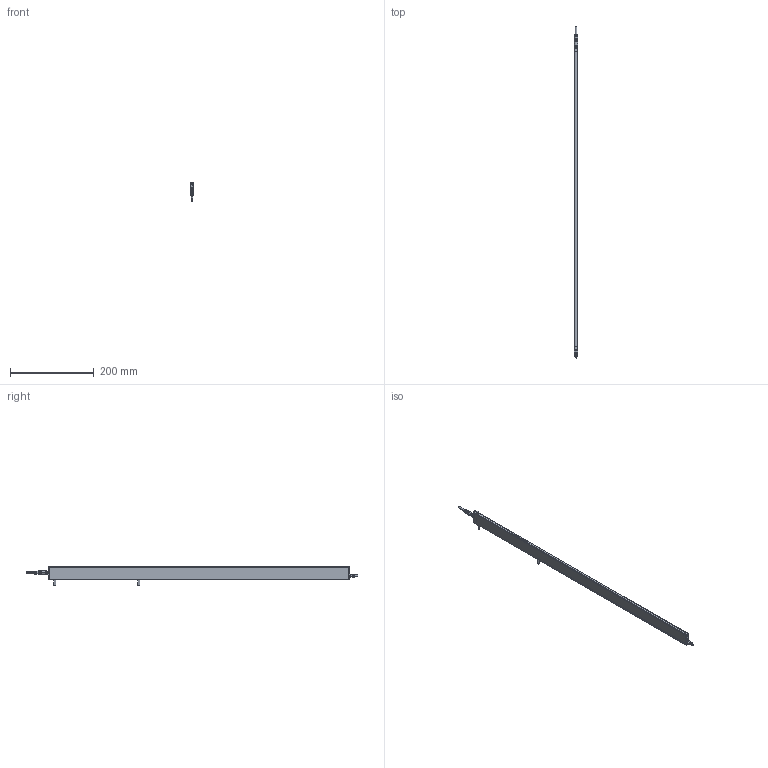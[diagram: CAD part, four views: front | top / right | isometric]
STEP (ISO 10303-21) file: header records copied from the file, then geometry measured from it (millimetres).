
FILE_DESCRIPTION (( 'STEP AP214' ), '1' );
FILE_NAME ('ILG-B-K2-0717mm.STEP', '2017-07-10T12:45:41', ( '' ), ( '' ), 'SwSTEP 2.0', 'SolidWorks 2016', '' );
FILE_SCHEMA (( 'AUTOMOTIVE_DESIGN' ));
Length unit declared in the file: millimetre
Products named in the file (1): ILG-B-K2-0717mm
Bounding box: 9 x 790.5 x 46.21 mm (x, y, z)
Surface area: 123246.6 mm2 (no closed solid volume)
Topology: 0 solids, 15 shells, 702 faces, 1822 edges, 1157 vertices
Faces by surface type: cylinder 287, plane 266, cone 99, bspline 32, torus 18
Entity records: 31388 total; most frequent: CARTESIAN_POINT 6631, ORIENTED_EDGE 3597, DIRECTION 3488, EDGE_CURVE 1806, AXIS2_PLACEMENT_3D 1342, VERTEX_POINT 1157, LINE 804, VECTOR 804
